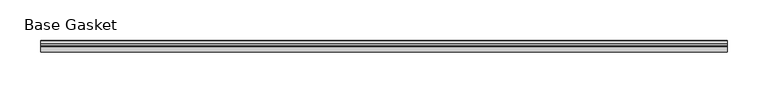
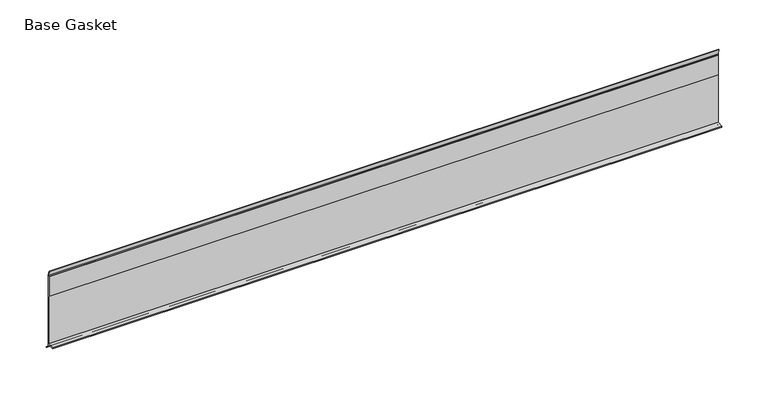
"""IFC4 building model written with IfcOpenShell, lengths in millimetres: furniture geometry, Gasket-Teknion-FHGB-AI_Healthcare-R2021 : Base Gasket."""

from ifc_helpers import new_model, si_unit, frame, origin, place, context, project, spatial, polyline, outline, extrude, source, transform, mapped, element, save


def base_gasket_90be0ce1(model_context):
    return source(origin(), model_context, "Body", "SweptSolid", [
        extrude(outline(polyline([(3.7283812, 98.4568417), (3.7283812, 4.3498477), (7.4222115, 0.6560174), (7.8482342, 0.0), (6.8281054, 0.3520979), (2.2043812, 4.3498477), (2.1334222, 6.3818476), (-6.2405171, 6.3818476), (-6.2405171, 7.9398773), (2.2043812, 7.9398773), (2.2043812, 71.4693447), (1.4106313, 71.4693447), (1.4106313, 96.8693477), (2.2043812, 96.8693477), (2.2043812, 98.4568417), (0.6755308, 104.4162708), (0.6755308, 105.2002997), (1.1891543, 104.587663), (3.7283812, 98.4568417)])), frame((-1527.8982117, 0.0, 0.0), z_axis=(1.0, 0.0, 0.0), x_axis=(0.0, 1.0, 0.0)), (0.0, 0.0, 1.0), 838.2),
    ])


if __name__ == "__main__":
    model = new_model("IFC4")
    model_context = context("Model", 3, world=origin())
    ifc_project = project(units=[si_unit("LENGTHUNIT", "METRE", prefix="MILLI")], contexts=[model_context])
    site = spatial("IfcSite", under=ifc_project)
    building = spatial("IfcBuilding", under=site)
    placement = place(None, origin())
    base_gasket_shape = base_gasket_90be0ce1(model_context)
    element("IfcFurniture", 1, ObjectType="Gasket-Teknion-FHGB-AI_Healthcare-R2021 : Base Gasket", at=placement, inside=building, context=model_context, shape_type="MappedRepresentation", body=[
        mapped(base_gasket_shape, transform((0.0, 0.0, 0.0), x_axis=(1.0, 0.0, 0.0), y_axis=(0.0, 1.0, 0.0), z_axis=(0.0, 0.0, 1.0))),
    ])
    save(model, "model.ifc")
